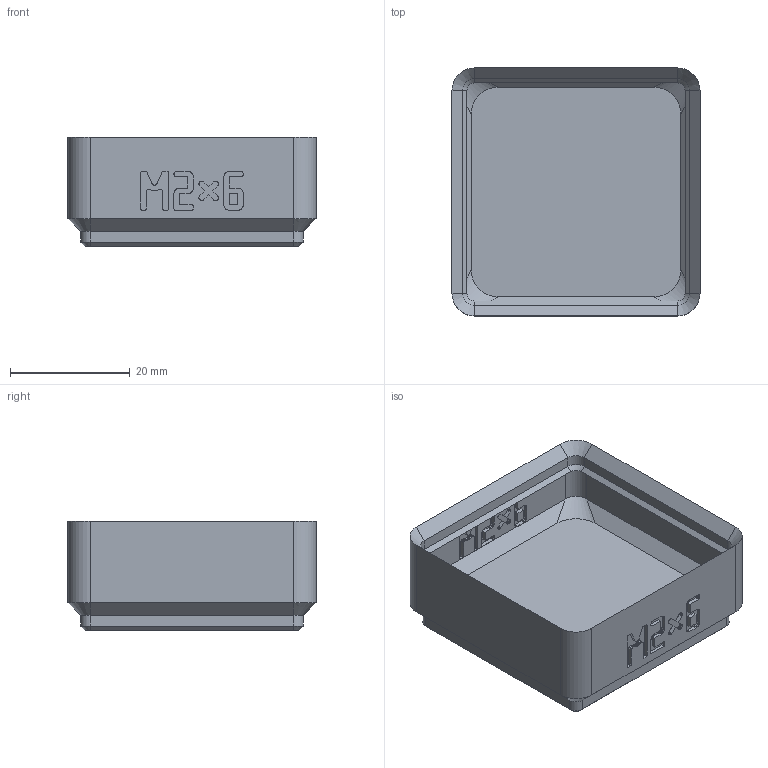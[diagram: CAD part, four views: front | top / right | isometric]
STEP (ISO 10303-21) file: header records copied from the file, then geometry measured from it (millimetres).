
FILE_DESCRIPTION(('Open CASCADE Model'),'2;1');
FILE_NAME('bin_m2x6','2026-11-16T17:21:30',('Author'),('Open CASCADE'), 'Open CASCADE STEP processor 8.0','build123d','Unknown');
FILE_SCHEMA(('AUTOMOTIVE_DESIGN { 1 0 10303 214 1 1 1 1 }'));
Products named in the file (1): bin_m2x6
Bounding box: 41.5 x 41.5 x 18.4 mm (x, y, z)
Volume: 10976.8 mm3; surface area: 8335.8 mm2
Topology: 1 solids, 1 shells, 971 faces, 2794 edges, 1844 vertices
Faces by surface type: plane 923, cylinder 24, cone 16, bspline 8
Full cylindrical faces by diameter (mm): 3.2 x4, 6.5 x4
Entity records: 65616 total; most frequent: CARTESIAN_POINT 13206, DIRECTION 8462, LINE 6386, VECTOR 6386, ORIENTED_EDGE 5588, PCURVE 5588, DEFINITIONAL_REPRESENTATION 5588, EDGE_CURVE 2794
